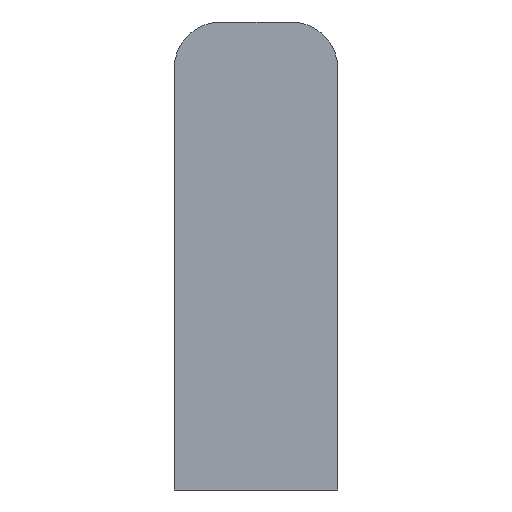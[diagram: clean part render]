
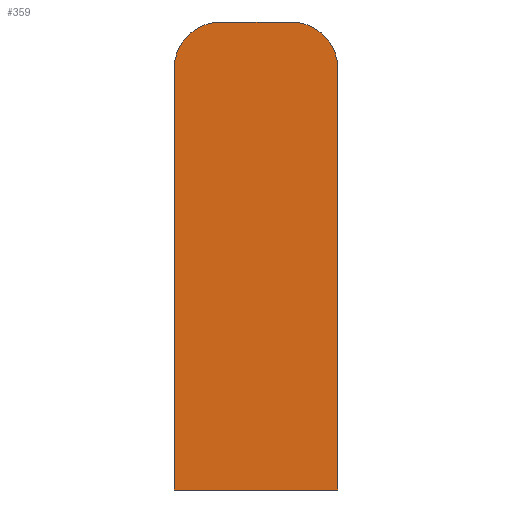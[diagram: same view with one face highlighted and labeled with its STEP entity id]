
A CAD part, front view. The second image highlights one B-rep face of the part: STEP entity #359.
In plain terms, the highlighted planar face has unit normal (0, -1, 0).
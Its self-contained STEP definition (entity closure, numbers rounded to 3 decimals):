
#1 = CARTESIAN_POINT ( 'NONE',  ( 5.25, 0., -16.5 ) ) ;
#2 = CARTESIAN_POINT ( 'NONE',  ( -5.25, 0., -16.5 ) ) ;
#4 = CARTESIAN_POINT ( 'NONE',  ( 5.25, 0., 10.5 ) ) ;
#27 = VERTEX_POINT ( 'NONE', #62 ) ;
#28 = VERTEX_POINT ( 'NONE', #49 ) ;
#29 = VERTEX_POINT ( 'NONE', #2 ) ;
#30 = VERTEX_POINT ( 'NONE', #4 ) ;
#31 = VERTEX_POINT ( 'NONE', #1 ) ;
#32 = VERTEX_POINT ( 'NONE', #53 ) ;
#49 = CARTESIAN_POINT ( 'NONE',  ( -2.25, 0., 13.5 ) ) ;
#53 = CARTESIAN_POINT ( 'NONE',  ( 2.25, 0., 13.5 ) ) ;
#62 = CARTESIAN_POINT ( 'NONE',  ( -5.25, 0., 10.5 ) ) ;
#63 = CARTESIAN_POINT ( 'NONE',  ( 5.25, 0., -16.5 ) ) ;
#64 = DIRECTION ( 'NONE',  ( 0., 0., 1. ) ) ;
#90 = CARTESIAN_POINT ( 'NONE',  ( 2.25, 0., 13.5 ) ) ;
#91 = DIRECTION ( 'NONE',  ( -1., 0., 0. ) ) ;
#97 = CARTESIAN_POINT ( 'NONE',  ( -5.25, 0., -16.5 ) ) ;
#104 = DIRECTION ( 'NONE',  ( 0., 0., -1. ) ) ;
#107 = CARTESIAN_POINT ( 'NONE',  ( 5.25, 0., -16.5 ) ) ;
#108 = DIRECTION ( 'NONE',  ( 1., 0., 0. ) ) ;
#119 = CARTESIAN_POINT ( 'NONE',  ( 2.25, 0., 10.5 ) ) ;
#121 = DIRECTION ( 'NONE',  ( 0., -1., 0. ) ) ;
#122 = DIRECTION ( 'NONE',  ( -1., 0., 0. ) ) ;
#127 = CARTESIAN_POINT ( 'NONE',  ( -2.25, 0., 10.5 ) ) ;
#134 = DIRECTION ( 'NONE',  ( 0., -1., 0. ) ) ;
#135 = DIRECTION ( 'NONE',  ( -1., 0., 0. ) ) ;
#196 = PLANE ( 'NONE',  #316 ) ;
#200 = CARTESIAN_POINT ( 'NONE',  ( 0., 0., -1.5 ) ) ;
#206 = DIRECTION ( 'NONE',  ( 0., 1., 0. ) ) ;
#207 = DIRECTION ( 'NONE',  ( -1., 0., 0. ) ) ;
#263 = EDGE_CURVE ( 'NONE', #31, #30, #460, .T. ) ;
#283 = EDGE_CURVE ( 'NONE', #32, #28, #377, .T. ) ;
#294 = EDGE_CURVE ( 'NONE', #27, #29, #523, .T. ) ;
#296 = AXIS2_PLACEMENT_3D ( 'NONE', #119, #121, #122 ) ;
#301 = AXIS2_PLACEMENT_3D ( 'NONE', #127, #134, #135 ) ;
#303 = EDGE_CURVE ( 'NONE', #29, #31, #527, .T. ) ;
#316 = AXIS2_PLACEMENT_3D ( 'NONE', #200, #206, #207 ) ;
#317 = EDGE_CURVE ( 'NONE', #30, #32, #536, .T. ) ;
#326 = EDGE_CURVE ( 'NONE', #28, #27, #542, .T. ) ;
#359 = ADVANCED_FACE ( 'NONE', ( #577 ), #196, .F. ) ;
#377 = LINE ( 'NONE', #90, #409 ) ;
#395 = EDGE_LOOP ( 'NONE', ( #473, #474, #475, #476, #477, #478 ) ) ;
#409 = VECTOR ( 'NONE', #91, 1000. ) ;
#460 = LINE ( 'NONE', #63, #461 ) ;
#461 = VECTOR ( 'NONE', #64, 1000. ) ;
#473 = ORIENTED_EDGE ( 'NONE', *, *, #263, .T. ) ;
#474 = ORIENTED_EDGE ( 'NONE', *, *, #317, .T. ) ;
#475 = ORIENTED_EDGE ( 'NONE', *, *, #283, .T. ) ;
#476 = ORIENTED_EDGE ( 'NONE', *, *, #326, .T. ) ;
#477 = ORIENTED_EDGE ( 'NONE', *, *, #294, .T. ) ;
#478 = ORIENTED_EDGE ( 'NONE', *, *, #303, .T. ) ;
#519 = VECTOR ( 'NONE', #104, 1000. ) ;
#523 = LINE ( 'NONE', #97, #519 ) ;
#527 = LINE ( 'NONE', #107, #528 ) ;
#528 = VECTOR ( 'NONE', #108, 1000. ) ;
#536 = CIRCLE ( 'NONE', #296, 3. ) ;
#542 = CIRCLE ( 'NONE', #301, 3. ) ;
#577 = FACE_OUTER_BOUND ( 'NONE', #395, .T. ) ;
